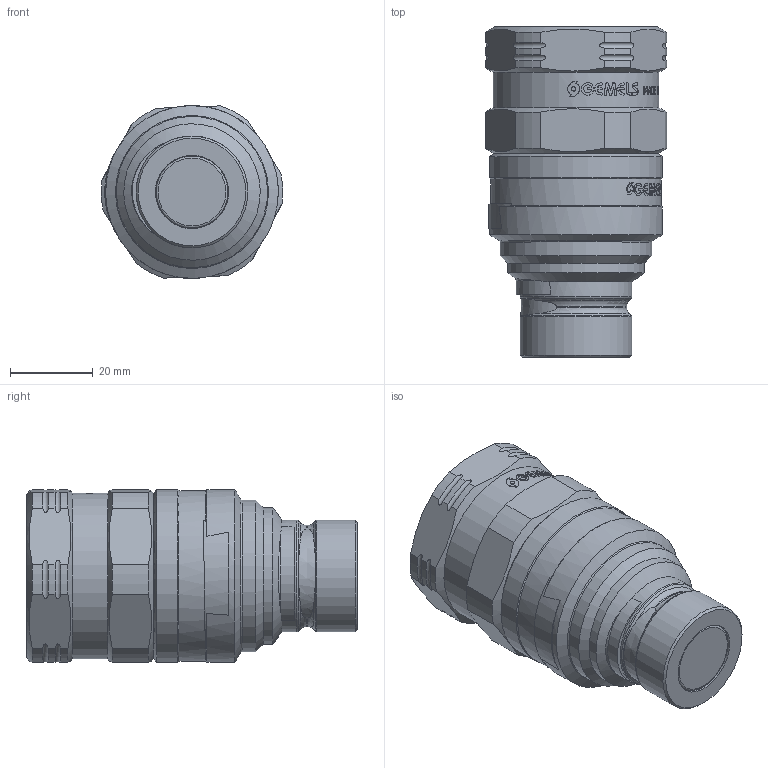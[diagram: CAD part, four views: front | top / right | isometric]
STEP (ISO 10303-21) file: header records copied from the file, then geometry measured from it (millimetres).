
FILE_DESCRIPTION(/* description */ (''),/* implementation_level */ '2;1');
FILE_NAME(/* name */ 'NC05S030004.stp',/* time_stamp */ '2024-11-19T11:44:08+01:00',/* author */ ('thomas.belotti'),/* organization */ (''),/* preprocessor_version */ 'ST-DEVELOPER v20',/* originating_system */ 'Autodesk Inventor 2024',/* authorisation */ '');
FILE_SCHEMA (('AUTOMOTIVE_DESIGN { 1 0 10303 214 3 1 1 }'));
Length unit declared in the file: millimetre
Products named in the file (1): Parte18
Bounding box: 43.79 x 79.7 x 41.67 mm (x, y, z)
Volume: 83249.2 mm3; surface area: 15488 mm2
Topology: 1 solids, 7 shells, 1123 faces, 3177 edges, 2117 vertices
Faces by surface type: bspline 709, plane 260, cylinder 87, cone 44, torus 23
Full cylindrical faces by diameter (mm): 17.323 x1, 17.65 x1, 18 x1, 27 x2, 32.95 x1, 36.5 x1, 40 x1, 41.2 x1, 41.7 x2
Entity records: 48919 total; most frequent: CARTESIAN_POINT 23453, ORIENTED_EDGE 6352, EDGE_CURVE 3176, DIRECTION 2845, VERTEX_POINT 2116, B_SPLINE_CURVE_WITH_KNOTS 1540, LINE 1201, VECTOR 1201
